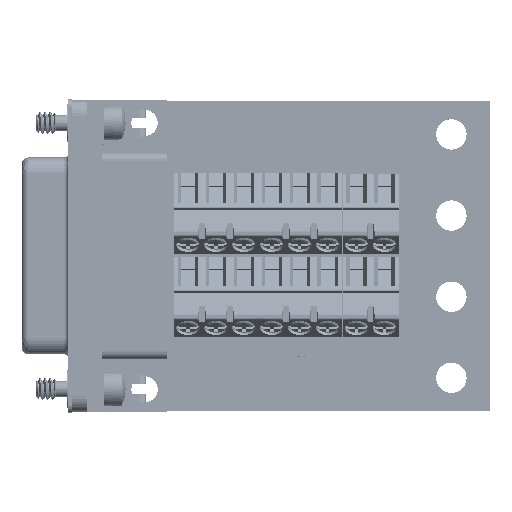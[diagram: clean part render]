
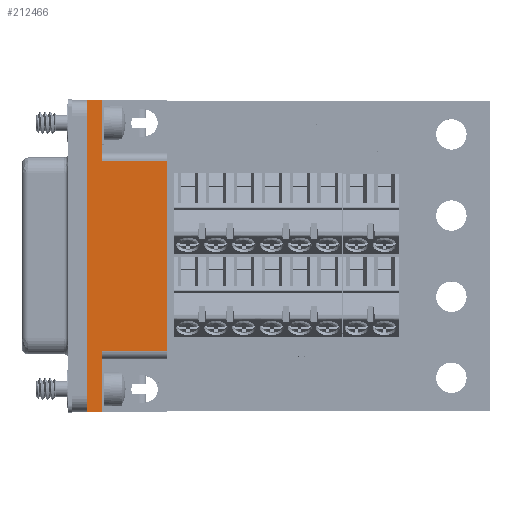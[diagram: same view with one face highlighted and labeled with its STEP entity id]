
A CAD part, top view. The second image highlights one B-rep face of the part: STEP entity #212466.
In plain terms, the highlighted planar face has unit normal (0, 0, 1).
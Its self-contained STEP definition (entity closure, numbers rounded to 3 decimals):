
#6852 = DIRECTION ( 'NONE',  ( 0., 1., 0. ) ) ;
#19429 = LINE ( 'NONE', #33119, #217869 ) ;
#19767 = VERTEX_POINT ( 'NONE', #318536 ) ;
#21627 = AXIS2_PLACEMENT_3D ( 'NONE', #191613, #317945, #288671 ) ;
#21951 = DIRECTION ( 'NONE',  ( 0., -1., 0. ) ) ;
#25205 = VECTOR ( 'NONE', #54290, 1000. ) ;
#30450 = CARTESIAN_POINT ( 'NONE',  ( 25.782, 95.775, 11.95 ) ) ;
#33119 = CARTESIAN_POINT ( 'NONE',  ( 25.782, 56.635, 11.95 ) ) ;
#33663 = PLANE ( 'NONE',  #21627 ) ;
#38423 = LINE ( 'NONE', #146485, #331483 ) ;
#42416 = CARTESIAN_POINT ( 'NONE',  ( 27.782, 88.115, 11.95 ) ) ;
#52659 = ORIENTED_EDGE ( 'NONE', *, *, #224597, .T. ) ;
#54290 = DIRECTION ( 'NONE',  ( -1., 0., 0. ) ) ;
#66548 = EDGE_CURVE ( 'NONE', #163818, #331679, #19429, .T. ) ;
#83854 = VECTOR ( 'NONE', #109271, 1000. ) ;
#86979 = VERTEX_POINT ( 'NONE', #172096 ) ;
#104882 = EDGE_CURVE ( 'NONE', #163818, #19767, #386699, .T. ) ;
#105167 = EDGE_CURVE ( 'NONE', #163520, #313383, #38423, .T. ) ;
#107658 = ORIENTED_EDGE ( 'NONE', *, *, #104882, .T. ) ;
#109271 = DIRECTION ( 'NONE',  ( 0., 1., 0. ) ) ;
#112276 = ORIENTED_EDGE ( 'NONE', *, *, #355623, .F. ) ;
#122931 = ORIENTED_EDGE ( 'NONE', *, *, #105167, .F. ) ;
#126178 = CARTESIAN_POINT ( 'NONE',  ( 29.632, 56.635, 11.95 ) ) ;
#146485 = CARTESIAN_POINT ( 'NONE',  ( 37.782, 76.205, 11.95 ) ) ;
#152818 = DIRECTION ( 'NONE',  ( 0., -1., 0. ) ) ;
#154547 = EDGE_CURVE ( 'NONE', #86979, #331679, #174598, .T. ) ;
#161627 = CARTESIAN_POINT ( 'NONE',  ( 29.632, 88.115, 11.95 ) ) ;
#163520 = VERTEX_POINT ( 'NONE', #294809 ) ;
#163591 = EDGE_CURVE ( 'NONE', #163520, #205324, #332904, .T. ) ;
#163818 = VERTEX_POINT ( 'NONE', #126178 ) ;
#172096 = CARTESIAN_POINT ( 'NONE',  ( 27.782, 95.775, 11.95 ) ) ;
#174598 = LINE ( 'NONE', #343120, #353521 ) ;
#178208 = VECTOR ( 'NONE', #411815, 1000. ) ;
#190462 = ORIENTED_EDGE ( 'NONE', *, *, #154547, .T. ) ;
#191613 = CARTESIAN_POINT ( 'NONE',  ( 27.782, 88.115, 11.95 ) ) ;
#205324 = VERTEX_POINT ( 'NONE', #161627 ) ;
#212466 = ADVANCED_FACE ( 'NONE', ( #333207 ), #33663, .T. ) ;
#212686 = DIRECTION ( 'NONE',  ( 1., 0., 0. ) ) ;
#214491 = CARTESIAN_POINT ( 'NONE',  ( 27.782, 56.635, 11.95 ) ) ;
#217836 = VECTOR ( 'NONE', #6852, 1000. ) ;
#217869 = VECTOR ( 'NONE', #348019, 1000. ) ;
#224597 = EDGE_CURVE ( 'NONE', #205324, #387714, #401554, .T. ) ;
#229136 = CARTESIAN_POINT ( 'NONE',  ( 37.782, 64.295, 11.95 ) ) ;
#239083 = ORIENTED_EDGE ( 'NONE', *, *, #361659, .T. ) ;
#262759 = LINE ( 'NONE', #30450, #178208 ) ;
#280304 = CARTESIAN_POINT ( 'NONE',  ( 29.632, 95.775, 11.95 ) ) ;
#288671 = DIRECTION ( 'NONE',  ( 1., 0., 0. ) ) ;
#294809 = CARTESIAN_POINT ( 'NONE',  ( 37.782, 88.115, 11.95 ) ) ;
#295148 = CARTESIAN_POINT ( 'NONE',  ( 29.632, 88.115, 11.95 ) ) ;
#300397 = EDGE_LOOP ( 'NONE', ( #52659, #112276, #190462, #315498, #107658, #239083, #122931, #318117 ) ) ;
#313383 = VERTEX_POINT ( 'NONE', #229136 ) ;
#315148 = VECTOR ( 'NONE', #212686, 1000. ) ;
#315498 = ORIENTED_EDGE ( 'NONE', *, *, #66548, .F. ) ;
#317945 = DIRECTION ( 'NONE',  ( 0., 0., 1. ) ) ;
#318117 = ORIENTED_EDGE ( 'NONE', *, *, #163591, .T. ) ;
#318536 = CARTESIAN_POINT ( 'NONE',  ( 29.632, 64.295, 11.95 ) ) ;
#331483 = VECTOR ( 'NONE', #21951, 1000. ) ;
#331679 = VERTEX_POINT ( 'NONE', #214491 ) ;
#332904 = LINE ( 'NONE', #42416, #25205 ) ;
#333207 = FACE_OUTER_BOUND ( 'NONE', #300397, .T. ) ;
#337747 = CARTESIAN_POINT ( 'NONE',  ( 27.782, 64.295, 11.95 ) ) ;
#343120 = CARTESIAN_POINT ( 'NONE',  ( 27.782, 88.115, 11.95 ) ) ;
#348019 = DIRECTION ( 'NONE',  ( -1., 0., 0. ) ) ;
#353521 = VECTOR ( 'NONE', #152818, 1000. ) ;
#354976 = CARTESIAN_POINT ( 'NONE',  ( 29.632, 88.115, 11.95 ) ) ;
#355623 = EDGE_CURVE ( 'NONE', #86979, #387714, #262759, .T. ) ;
#361659 = EDGE_CURVE ( 'NONE', #19767, #313383, #399593, .T. ) ;
#386699 = LINE ( 'NONE', #354976, #217836 ) ;
#387714 = VERTEX_POINT ( 'NONE', #280304 ) ;
#399593 = LINE ( 'NONE', #337747, #315148 ) ;
#401554 = LINE ( 'NONE', #295148, #83854 ) ;
#411815 = DIRECTION ( 'NONE',  ( 1., 0., 0. ) ) ;
